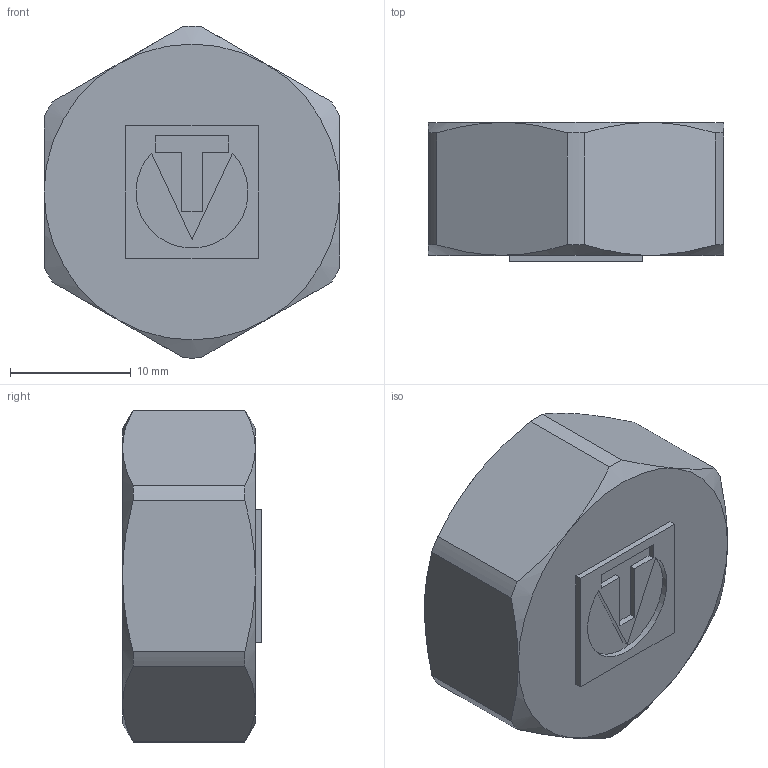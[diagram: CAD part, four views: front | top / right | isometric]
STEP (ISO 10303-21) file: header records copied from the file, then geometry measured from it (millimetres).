
FILE_DESCRIPTION(('STEP AP203'), '1');
FILE_NAME('ÂÐ.752513.010 - VTr.590.N.0004 Çàãë. ðåçüá', '2024-07-08T07:24:39', ('Boss'), (''), 'C3D Converter', 'C3D Toolkit', '');
FILE_SCHEMA(('CONFIG_CONTROL_DESIGN'));
Length unit declared in the file: millimetre
Products named in the file (1): ВР.752513.010
Bounding box: 24.5 x 11.5 x 27.5 mm (x, y, z)
Volume: 3181.4 mm3; surface area: 2442 mm2
Topology: 1 solids, 1 shells, 44 faces, 104 edges, 66 vertices
Faces by surface type: plane 26, cone 10, cylinder 8
Full cylindrical faces by diameter (mm): 18.632 x1
Entity records: 1775 total; most frequent: CARTESIAN_POINT 755, ORIENTED_EDGE 204, DIRECTION 197, EDGE_CURVE 102, AXIS2_PLACEMENT_3D 71, VERTEX_POINT 66, LINE 55, VECTOR 55
